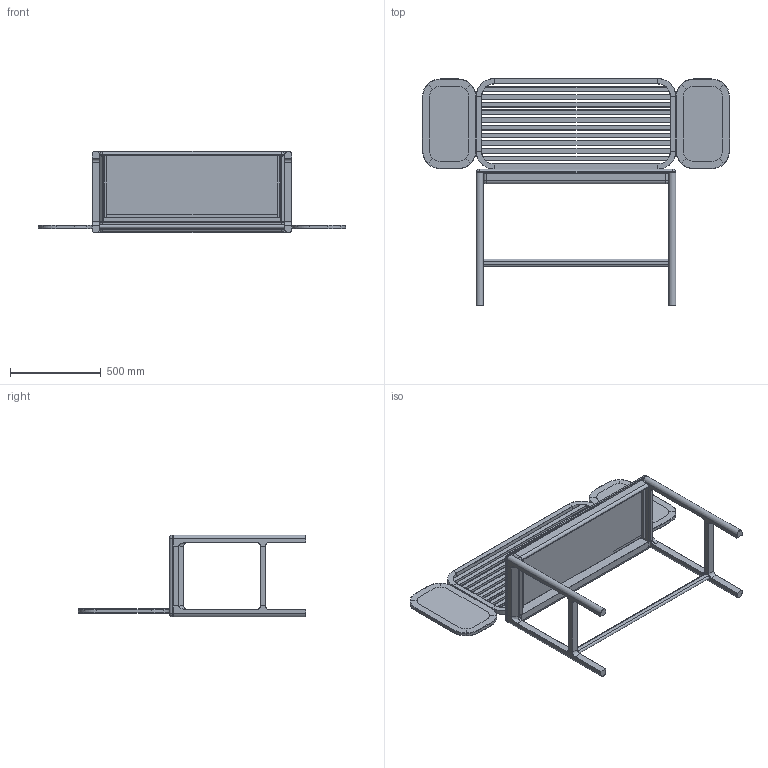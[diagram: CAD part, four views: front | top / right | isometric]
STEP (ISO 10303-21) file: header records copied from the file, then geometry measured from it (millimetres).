
FILE_DESCRIPTION (( 'STEP AP203' ), '1' );
FILE_NAME ('BUD WORKING DESK.STEP', '2020-07-14T06:30:44', ( '' ), ( '' ), 'SwSTEP 2.0', 'SolidWorks 2020', '' );
FILE_SCHEMA (( 'CONFIG_CONTROL_DESIGN' ));
Length unit declared in the file: millimetre
Products named in the file (2): BUD WORKING DESK; Group1^working desk BUD_defeature
Assembly tree (1 placements, depth 2):
  BUD WORKING DESK
    Group1^working desk BUD_defeature
Bounding box: 1690 x 1250 x 450 mm (x, y, z)
Volume: 35876853.8 mm3; surface area: 4475911 mm2
Topology: 4 solids, 4 shells, 509 faces, 1260 edges, 740 vertices
Faces by surface type: plane 333, cylinder 76, cone 56, torus 36, sphere 4, bspline 4
Entity records: 15094 total; most frequent: CARTESIAN_POINT 2823, DIRECTION 2534, ORIENTED_EDGE 2512, EDGE_CURVE 1256, LINE 908, VECTOR 908, AXIS2_PLACEMENT_3D 813, VERTEX_POINT 740
